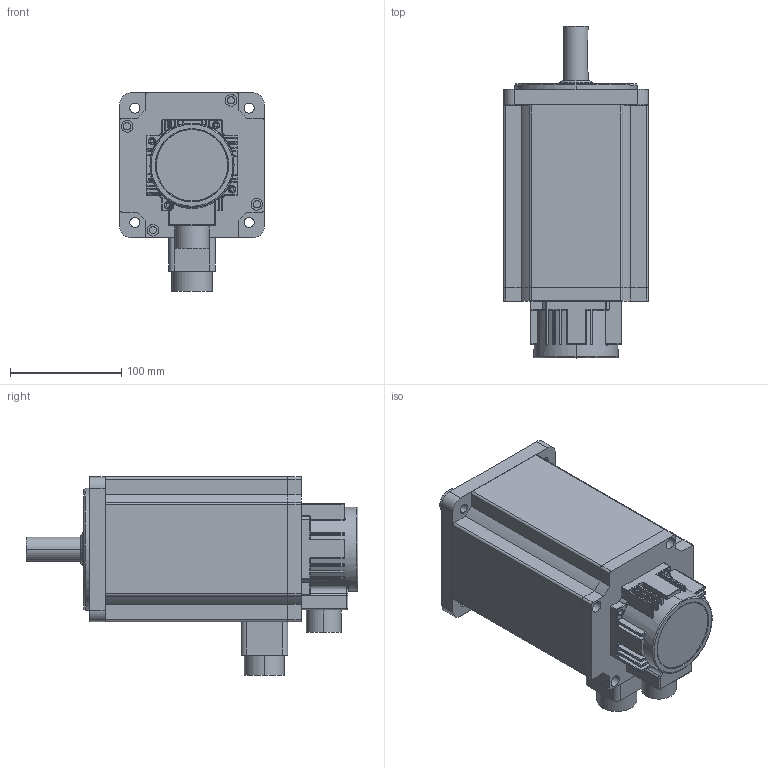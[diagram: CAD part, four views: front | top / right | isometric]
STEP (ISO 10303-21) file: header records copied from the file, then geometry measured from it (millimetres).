
FILE_DESCRIPTION (( 'STEP AP214' ), '1' );
FILE_NAME ('RSN-M13J15025A.STEP', '2022-01-14T08:51:59', ( '' ), ( '' ), 'SwSTEP 2.0', 'SolidWorks 2020', '' );
FILE_SCHEMA (( 'AUTOMOTIVE_DESIGN' ));
Length unit declared in the file: millimetre
Products named in the file (5): S130DG-B-001DY; S130DG-A-001DY; RSN-M13J15025A; 130SF3800-K2282.5-001; S130DG-C-001DY
Assembly tree (4 placements, depth 2):
  RSN-M13J15025A
    S130DG-A-001DY
    S130DG-B-001DY
    S130DG-C-001DY
    130SF3800-K2282.5-001
Bounding box: 130 x 298 x 178 mm (x, y, z)
Volume: 3022606.4 mm3; surface area: 324580.6 mm2
Topology: 9 solids, 9 shells, 835 faces, 2005 edges, 1156 vertices
Faces by surface type: cylinder 405, plane 188, torus 126, sphere 58, bspline 32, cone 26
Entity records: 27352 total; most frequent: CARTESIAN_POINT 6326, DIRECTION 4434, ORIENTED_EDGE 3872, EDGE_CURVE 1936, AXIS2_PLACEMENT_3D 1827, VERTEX_POINT 1156, CIRCLE 1017, EDGE_LOOP 926
